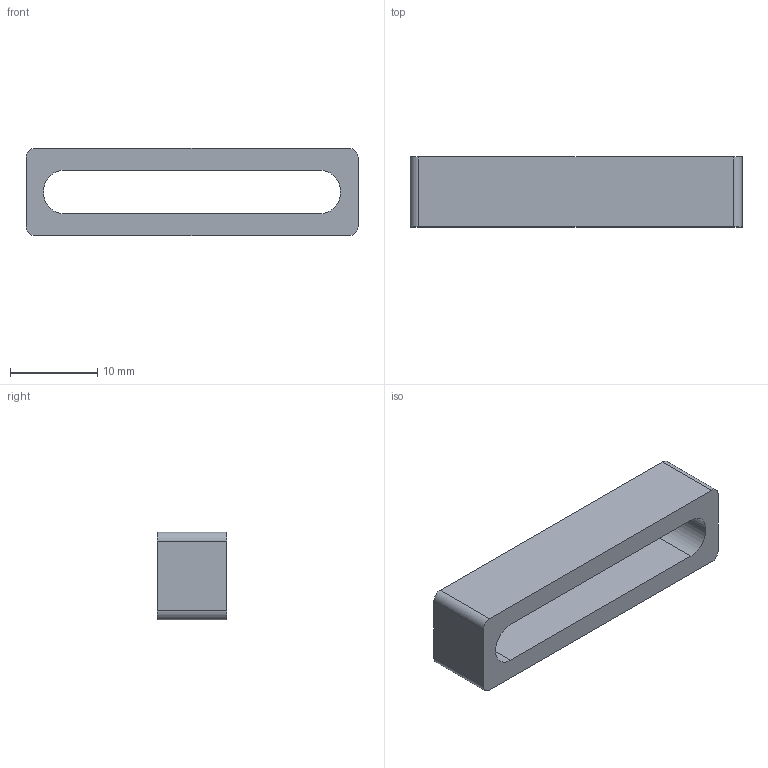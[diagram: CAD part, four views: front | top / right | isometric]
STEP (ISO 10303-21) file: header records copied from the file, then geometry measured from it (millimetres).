
FILE_DESCRIPTION(('Open CASCADE Model'),'2;1');
FILE_NAME('Open CASCADE Shape Model','2026-11-01T16:34:13',('Author'),( 'Open CASCADE'),'Open CASCADE STEP processor 8.0','build123d', 'Unknown');
FILE_SCHEMA(('AUTOMOTIVE_DESIGN { 1 0 10303 214 1 1 1 1 }'));
Length unit declared in the file: millimetre
Products named in the file (1): SOLID
Bounding box: 38 x 8 x 10 mm (x, y, z)
Volume: 1712.7 mm3; surface area: 1773.5 mm2
Topology: 1 solids, 1 shells, 18 faces, 48 edges, 32 vertices
Faces by surface type: plane 10, cylinder 8
Entity records: 1202 total; most frequent: CARTESIAN_POINT 235, DIRECTION 178, ORIENTED_EDGE 96, LINE 96, VECTOR 96, PCURVE 96, DEFINITIONAL_REPRESENTATION 96, EDGE_CURVE 48
